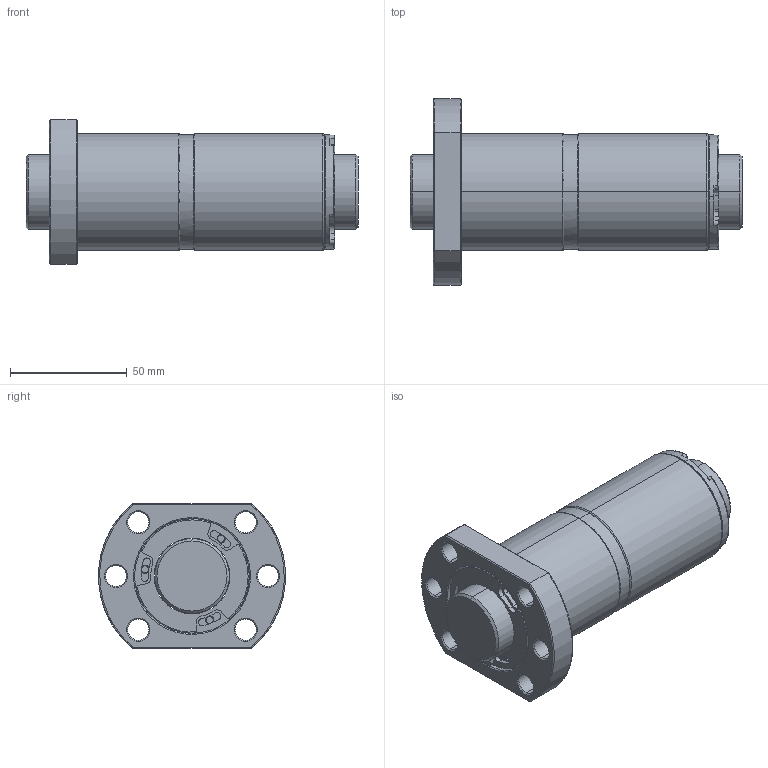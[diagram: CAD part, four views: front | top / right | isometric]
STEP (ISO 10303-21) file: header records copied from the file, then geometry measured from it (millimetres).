
FILE_DESCRIPTION (( 'STEP AP203' ), '1' );
FILE_NAME ('DFSR03210C1D-C.STEP', '2020-06-17T02:28:57', ( '' ), ( '' ), 'SwSTEP 2.0', 'SolidWorks 2013', '' );
FILE_SCHEMA (( 'CONFIG_CONTROL_DESIGN' ));
Length unit declared in the file: millimetre
Products named in the file (1): DFSR03210C1D-C
Bounding box: 142 x 79.87 x 62 mm (x, y, z)
Volume: 269007 mm3; surface area: 59121.6 mm2
Topology: 2 solids, 2 shells, 271 faces, 662 edges, 414 vertices
Faces by surface type: cylinder 141, plane 75, cone 33, bspline 22
Entity records: 11155 total; most frequent: CARTESIAN_POINT 4542, DIRECTION 1484, ORIENTED_EDGE 1324, EDGE_CURVE 662, AXIS2_PLACEMENT_3D 630, VERTEX_POINT 414, CIRCLE 380, EDGE_LOOP 308
